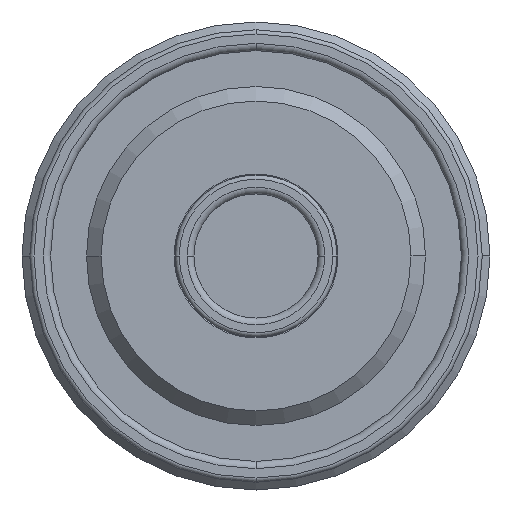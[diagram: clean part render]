
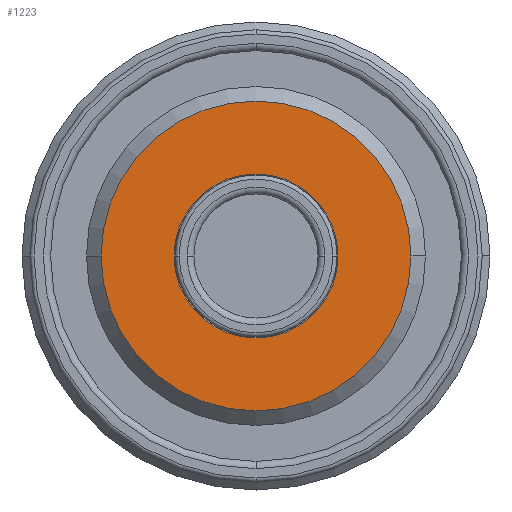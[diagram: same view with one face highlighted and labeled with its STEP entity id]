
A CAD part, front view. The second image highlights one B-rep face of the part: STEP entity #1223.
In plain terms, the highlighted planar face has unit normal (0, -1, 0).
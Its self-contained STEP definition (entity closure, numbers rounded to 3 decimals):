
#866=PLANE('',#3348);
#903=FACE_BOUND('',#1582,.T.);
#904=FACE_BOUND('',#1583,.T.);
#1223=ADVANCED_FACE('',(#903,#904),#866,.F.);
#1582=EDGE_LOOP('',(#2002,#2003));
#1583=EDGE_LOOP('',(#2004,#2005));
#2002=ORIENTED_EDGE('',*,*,#2677,.T.);
#2003=ORIENTED_EDGE('',*,*,#2786,.T.);
#2004=ORIENTED_EDGE('',*,*,#2746,.F.);
#2005=ORIENTED_EDGE('',*,*,#2787,.F.);
#2434=VERTEX_POINT('',#4609);
#2435=VERTEX_POINT('',#4611);
#2490=VERTEX_POINT('',#4769);
#2491=VERTEX_POINT('',#4770);
#2677=EDGE_CURVE('',#2435,#2434,#2994,.T.);
#2746=EDGE_CURVE('',#2490,#2491,#3029,.T.);
#2786=EDGE_CURVE('',#2434,#2435,#3053,.T.);
#2787=EDGE_CURVE('',#2491,#2490,#3054,.T.);
#2994=CIRCLE('',#3253,7.88);
#3029=CIRCLE('',#3304,14.9);
#3053=CIRCLE('',#3346,7.88);
#3054=CIRCLE('',#3347,14.9);
#3253=AXIS2_PLACEMENT_3D('',#4610,#3766,#3767);
#3304=AXIS2_PLACEMENT_3D('',#4768,#3896,#3897);
#3346=AXIS2_PLACEMENT_3D('',#5013,#3986,#3987);
#3347=AXIS2_PLACEMENT_3D('',#5014,#3988,#3989);
#3348=AXIS2_PLACEMENT_3D('',#5015,#3990,#3991);
#3766=DIRECTION('',(0.,1.,0.));
#3767=DIRECTION('',(-1.,0.,0.));
#3896=DIRECTION('',(0.,1.,0.));
#3897=DIRECTION('',(-1.,0.,0.));
#3986=DIRECTION('',(0.,1.,0.));
#3987=DIRECTION('',(-1.,0.,0.));
#3988=DIRECTION('',(0.,1.,0.));
#3989=DIRECTION('',(-1.,0.,0.));
#3990=DIRECTION('',(0.,1.,0.));
#3991=DIRECTION('',(1.,0.,0.));
#4609=CARTESIAN_POINT('',(7.88,-1.3,0.));
#4610=CARTESIAN_POINT('',(0.,-1.3,0.));
#4611=CARTESIAN_POINT('',(-7.88,-1.3,0.));
#4768=CARTESIAN_POINT('',(0.,-1.3,0.));
#4769=CARTESIAN_POINT('',(-14.9,-1.3,0.));
#4770=CARTESIAN_POINT('',(14.9,-1.3,0.));
#5013=CARTESIAN_POINT('',(0.,-1.3,0.));
#5014=CARTESIAN_POINT('',(0.,-1.3,0.));
#5015=CARTESIAN_POINT('',(14.9,-1.3,0.));
